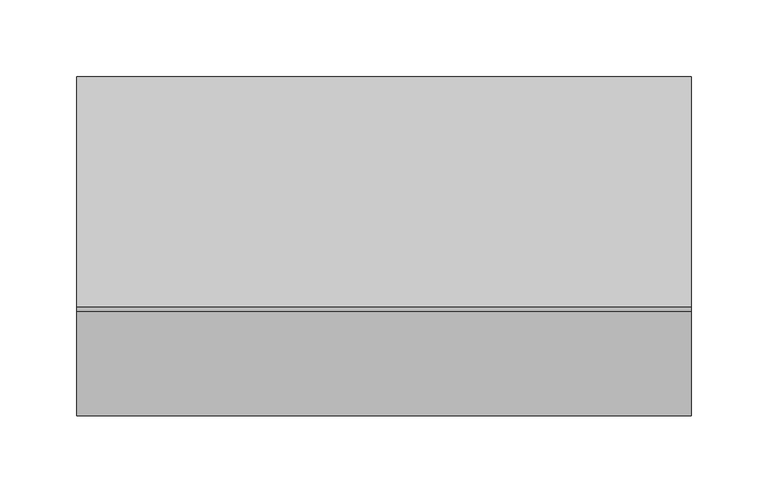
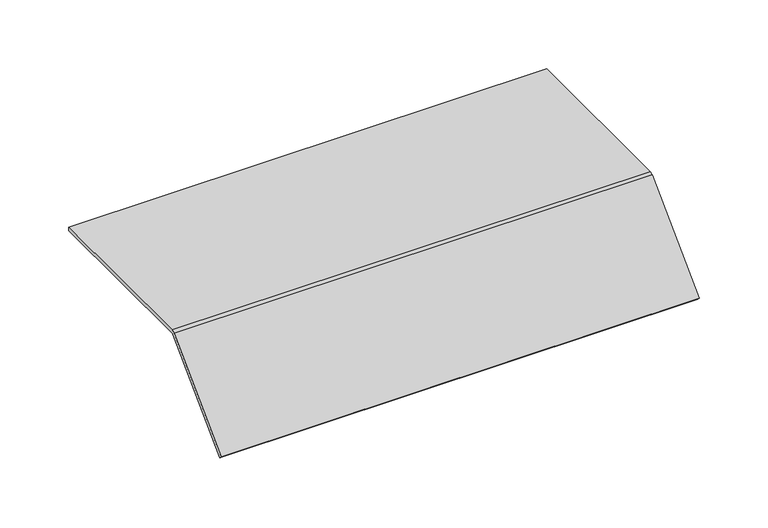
"""IFC4 building model written with IfcOpenShell, lengths in millimetres: proxy geometry, Electrical_Installation_Hager_Blank-Cover-400mm-Single-Sided-Height-70mm : Electrical_Installation_Hager_Blank-Cover-400mm-Single-Sided-Height-70mm."""

import ifcopenshell
import ifcopenshell.guid

model = None  # the IFC model being written
_history = None  # IfcOwnerHistory: only IFC2X3 demands one
_inside = {}  # id of a spatial element -> (the spatial element, [elements in it])
_under = {}  # id of a project, library or spatial element -> (it, [spatial elements below it])
_declared = {}  # id of a project -> (the project, [libraries it declares])
_typed = {}  # id of a type object -> (the type object, [elements of that type])
_made_of = {}  # id of a material, layer set ... -> (it, [elements and type objects made of it])


def new_model(schema):
    """Start an empty IFC model of exactly this schema.

    Asked for "IFC4X3", IfcOpenShell would pick the latest addendum, in which some entities
    have other attributes; the version numbers below select the first issue.
    IFC2X3 requires an IfcOwnerHistory on every rooted entity: one is made here for all.
    """
    global model, _history
    if schema == "IFC4X3":
        model = ifcopenshell.file(schema_version=(4, 3, 0, 0))
    else:
        model = ifcopenshell.file(schema=schema)
    _inside.clear()
    _under.clear()
    _declared.clear()
    _typed.clear()
    _made_of.clear()
    _history = None
    if model.schema == "IFC2X3":
        org = make("IfcOrganization", Name="unknown")
        user = make(
            "IfcPersonAndOrganization",
            ThePerson=make("IfcPerson", FamilyName="unknown"),
            TheOrganization=org,
        )
        app = make(
            "IfcApplication",
            ApplicationDeveloper=org,
            Version="unknown",
            ApplicationFullName="unknown",
            ApplicationIdentifier="unknown",
        )
        _history = make(
            "IfcOwnerHistory",
            OwningUser=user,
            OwningApplication=app,
            ChangeAction="ADDED",
            CreationDate=0,
        )
    return model


def make(cls, **values):
    """One entity of the class cls with the attributes given. An attribute that is None is left unset."""
    return model.create_entity(
        cls, **{name: value for name, value in values.items() if value is not None}
    )


def rooted(cls, **values):
    """An entity with a GlobalId (a new one), such as an element, a storey or a relation."""
    return make(cls, GlobalId=ifcopenshell.guid.new(), OwnerHistory=_history, **values)


def si_unit(unit_type, name, prefix=None):
    """IfcSIUnit, for example si_unit("LENGTHUNIT", "METRE", prefix="MILLI")."""
    return make("IfcSIUnit", UnitType=unit_type, Prefix=prefix, Name=name)


def assignment(units):
    """IfcUnitAssignment: the units of a project."""
    return None if units is None else make("IfcUnitAssignment", Units=units)


def point(xyz):
    """IfcCartesianPoint."""
    return None if xyz is None else make("IfcCartesianPoint", Coordinates=xyz)


def direction(xyz):
    """IfcDirection."""
    return None if xyz is None else make("IfcDirection", DirectionRatios=xyz)


def frame(location, z_axis=None, x_axis=None):
    """IfcAxis2Placement3D, a coordinate frame: its origin and axes. An axis left out is left unset."""
    return make(
        "IfcAxis2Placement3D",
        Location=point(location),
        Axis=direction(z_axis),
        RefDirection=direction(x_axis),
    )


def frame_2d(location, x_axis=None):
    """IfcAxis2Placement2D, a coordinate frame in the plane: its origin and x axis."""
    return make(
        "IfcAxis2Placement2D", Location=point(location), RefDirection=direction(x_axis)
    )


def origin():
    """The frame at (0, 0, 0) with its axes left unset."""
    return frame((0.0, 0.0, 0.0))


def place(relative_to, where):
    """IfcLocalPlacement: puts the frame where relative to a parent placement (None: the world)."""
    return make(
        "IfcLocalPlacement", PlacementRelTo=relative_to, RelativePlacement=where
    )


def context(
    kind, dimensions, precision=None, world=None, true_north=None, identifier=None
):
    """IfcGeometricRepresentationContext, for example the 3D "Model" context."""
    return make(
        "IfcGeometricRepresentationContext",
        ContextIdentifier=identifier,
        ContextType=kind,
        CoordinateSpaceDimension=dimensions,
        Precision=precision,
        WorldCoordinateSystem=world,
        TrueNorth=true_north,
    )


def project(units=None, contexts=None):
    """IfcProject with its units and contexts."""
    return rooted(
        "IfcProject",
        Name="project",
        RepresentationContexts=contexts,
        UnitsInContext=assignment(units),
    )


def spatial(cls, under=None, at=None, **own):
    """A site, building, storey or space (cls), placed at a placement, below another one or the project."""
    s = rooted(cls, ObjectPlacement=at, **own)
    if under is not None:
        _under.setdefault(under.id(), (under, []))[1].append(s)
    return s


def polyline(points):
    """IfcPolyline through the points."""
    return make("IfcPolyline", Points=[point(p) for p in points])


def circle_curve(where, radius):
    """IfcCircle in the frame where."""
    return make("IfcCircle", Position=where, Radius=radius)


def trimmed(basis, trim1, trim2, sense, master):
    """IfcTrimmedCurve: the piece of a basis curve between two trims."""
    return make(
        "IfcTrimmedCurve",
        BasisCurve=basis,
        Trim1=trim1,
        Trim2=trim2,
        SenseAgreement=sense,
        MasterRepresentation=master,
    )


def segment(curve, same_sense, transition):
    """IfcCompositeCurveSegment."""
    return make(
        "IfcCompositeCurveSegment",
        Transition=transition,
        SameSense=same_sense,
        ParentCurve=curve,
    )


def composite_curve(segments, self_intersect=None):
    """IfcCompositeCurve: segments joined end to end."""
    return make("IfcCompositeCurve", Segments=segments, SelfIntersect=self_intersect)


def outline(outer, holes=None, kind="AREA"):
    """IfcArbitraryClosedProfileDef: a profile drawn as a closed curve; with holes, ...WithVoids."""
    if holes is None:
        return make("IfcArbitraryClosedProfileDef", ProfileType=kind, OuterCurve=outer)
    return make(
        "IfcArbitraryProfileDefWithVoids",
        ProfileType=kind,
        OuterCurve=outer,
        InnerCurves=holes,
    )


def extrude(swept, where, along, depth):
    """IfcExtrudedAreaSolid: the profile swept, set in the frame where, extruded along a direction by depth."""
    return make(
        "IfcExtrudedAreaSolid",
        SweptArea=swept,
        Position=where,
        ExtrudedDirection=direction(along),
        Depth=depth,
    )


def shape(context_of_items, identifier, shape_type, items):
    """IfcShapeRepresentation: the items that make up one representation, for example the "Body"."""
    return make(
        "IfcShapeRepresentation",
        ContextOfItems=context_of_items,
        RepresentationIdentifier=identifier,
        RepresentationType=shape_type,
        Items=items,
    )


def source(mapping_origin, context_of_items, identifier, shape_type, items):
    """IfcRepresentationMap: a shape defined once, which mapped items show again and again."""
    return make(
        "IfcRepresentationMap",
        MappingOrigin=mapping_origin,
        MappedRepresentation=shape(context_of_items, identifier, shape_type, items),
    )


def transform(
    local_origin,
    x_axis=None,
    y_axis=None,
    z_axis=None,
    scale=None,
    scale2=None,
    scale3=None,
    uniform=True,
):
    """IfcCartesianTransformationOperator3D, or its non-uniform kind. x_axis, y_axis, z_axis: its Axis1, 2, 3."""
    if uniform:
        return make(
            "IfcCartesianTransformationOperator3D",
            Axis1=direction(x_axis),
            Axis2=direction(y_axis),
            LocalOrigin=point(local_origin),
            Scale=scale,
            Axis3=direction(z_axis),
        )
    return make(
        "IfcCartesianTransformationOperator3DnonUniform",
        Axis1=direction(x_axis),
        Axis2=direction(y_axis),
        LocalOrigin=point(local_origin),
        Scale=scale,
        Axis3=direction(z_axis),
        Scale2=scale2,
        Scale3=scale3,
    )


def mapped(mapping_source, mapping_target):
    """IfcMappedItem: shows the shape of a source again, moved by a transform."""
    return make(
        "IfcMappedItem", MappingSource=mapping_source, MappingTarget=mapping_target
    )


def made_of(thing, what):
    """Note that an element or type object is made of a material, layer set ...; save() writes the relation."""
    if what is not None:
        _made_of.setdefault(what.id(), (what, []))[1].append(thing)
    return thing


def element(
    cls,
    number,
    at=None,
    inside=None,
    cuts=None,
    type_object=None,
    material=None,
    context=None,
    identifier="Body",
    shape_type=None,
    held_by="IfcProductDefinitionShape",
    body=None,
    shapes=None,
    **own,
):
    """One element of the class cls, such as IfcWall. Its Tag is "e" and its number.

    at: its placement. inside: the storey or other place that contains it. cuts: it is an
    opening in that element (IfcRelVoidsElement). A single representation is given by context,
    identifier, shape_type and body (its items); several are given by shapes. held_by: the class
    of the entity that holds the representations. save() writes the other relations.
    """
    e = rooted(cls, Tag="e%d" % number, ObjectPlacement=at, **own)
    if body is not None:
        shapes = [shape(context, identifier, shape_type, body)]
    if shapes is not None:
        e.Representation = make(held_by, Representations=shapes)
    if inside is not None:
        _inside.setdefault(inside.id(), (inside, []))[1].append(e)
    if cuts is not None:
        rooted(
            "IfcRelVoidsElement", RelatingBuildingElement=cuts, RelatedOpeningElement=e
        )
    if type_object is not None:
        _typed.setdefault(type_object.id(), (type_object, []))[1].append(e)
    return made_of(e, material)


def aggregate(whole, parts):
    """IfcRelAggregates: a whole, such as a stair, and the parts it consists of."""
    return rooted("IfcRelAggregates", RelatingObject=whole, RelatedObjects=parts)


def save(model, path):
    """Write the relations noted so far, then the file.

    IfcRelAggregates (storeys below a building ...), IfcRelContainedInSpatialStructure (elements
    in a storey), IfcRelDefinesByType, IfcRelAssociatesMaterial and IfcRelDeclares: one each for
    every whole, place, type object, material and project.
    """
    for whole, parts in _under.values():
        aggregate(whole, parts)
    for where, things in _inside.values():
        rooted(
            "IfcRelContainedInSpatialStructure",
            RelatedElements=things,
            RelatingStructure=where,
        )
    for kind, things in _typed.values():
        rooted("IfcRelDefinesByType", RelatedObjects=things, RelatingType=kind)
    for what, things in _made_of.values():
        rooted("IfcRelAssociatesMaterial", RelatedObjects=things, RelatingMaterial=what)
    for by, libraries in _declared.values():
        rooted("IfcRelDeclares", RelatingContext=by, RelatedDefinitions=libraries)
    model.write(path)


def electrical_fixtures_50cfb48d(model_context):
    return source(origin(), model_context, "Body", "SweptSolid", [
        extrude(outline(composite_curve([segment(polyline([(75.0, 40.5), (75.0, 37.5), (-74.8229541, 37.5)]), True, "CONTINUOUS"), segment(trimmed(circle_curve(frame_2d((-74.8229541, 36.0725733)), 1.4274267), [point((-74.8229541, 37.5))], [point((-75.8322972, 37.0819164))], True, "CARTESIAN"), True, "CONTINUOUS"), segment(polyline([(-75.8322972, 37.0819164), (-143.6627596, -30.7485461), (-145.78408, -28.6272257), (-77.8206472, 39.336207)]), True, "CONTINUOUS"), segment(trimmed(circle_curve(frame_2d((-75.0110025, 36.5265623)), 3.9734377), [point((-77.8206472, 39.336207))], [point((-75.0110025, 40.5))], False, "CARTESIAN"), True, "CONTINUOUS"), segment(polyline([(-75.0110025, 40.5), (75.0, 40.5)]), True, "CONTINUOUS")], self_intersect=False)), frame((0.0, 0.0, 0.0), z_axis=(1.0, 0.0, 0.0), x_axis=(0.0, 1.0, 0.0)), (0.0, 0.0, 1.0), 400.0),
    ])


if __name__ == "__main__":
    model = new_model("IFC4")
    model_context = context("Model", 3, world=origin())
    ifc_project = project(units=[si_unit("LENGTHUNIT", "METRE", prefix="MILLI")], contexts=[model_context])
    site = spatial("IfcSite", under=ifc_project)
    building = spatial("IfcBuilding", under=site)
    placement = place(None, origin())
    electrical_fixtures_shape = electrical_fixtures_50cfb48d(model_context)
    element("IfcBuildingElementProxy", 1, Name="Electrical_Installation_Hager_Blank-Cover-400mm-Single-Sided-Height-70mm : Electrical_Installation_Hager_Blank-Cover-400mm-Single-Sided-Height-70mm", ObjectType="Electrical_Installation_Hager_Blank-Cover-400mm-Single-Sided-Height-70mm : Electrical_Installation_Hager_Blank-Cover-400mm-Single-Sided-Height-70mm", at=placement, inside=building, context=model_context, shape_type="MappedRepresentation", body=[
        mapped(electrical_fixtures_shape, transform((0.0, 0.0, 0.0), x_axis=(1.0, 0.0, 0.0), y_axis=(0.0, 1.0, 0.0), z_axis=(0.0, 0.0, 1.0))),
    ])
    save(model, "model.ifc")
